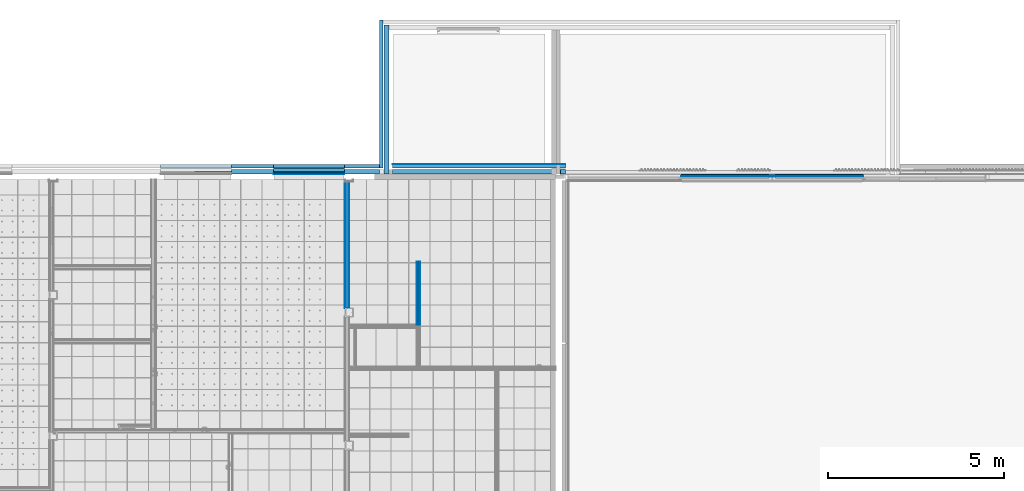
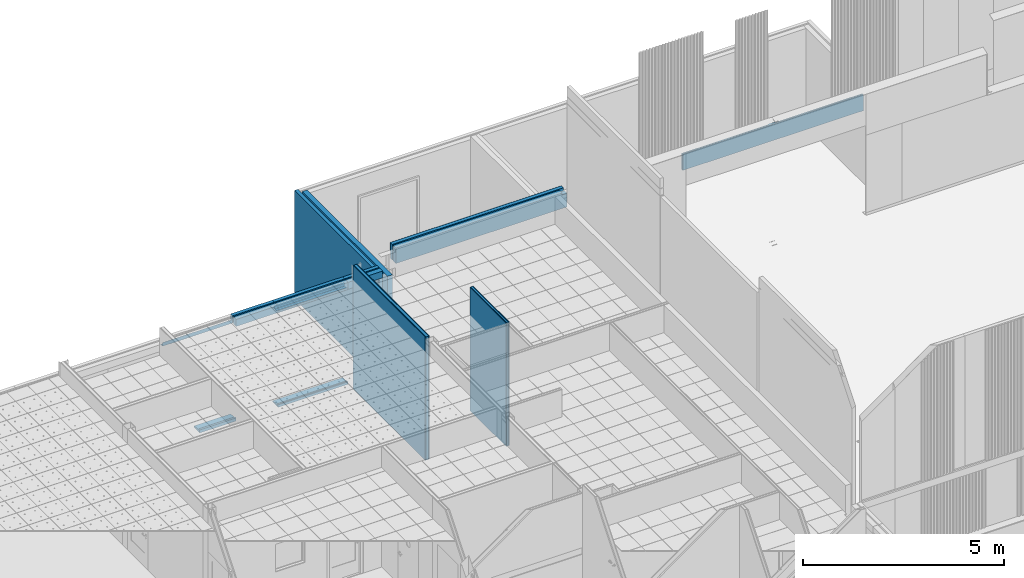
# One storey, part 94 of 338: 32 building element parts, 11 elements without a shape of their own.
"""IFC2X3 building model written with IfcOpenShell, lengths in millimetres."""

from ifc_helpers import new_model, entity, si_unit, converted_unit, derived_unit, money_unit, direction, frame, origin_with_axes, place, context, subcontext, project, spatial, faceted_brep, material, type_object, element, aggregate, save


model = new_model("IFC2X3")

# Units and contexts
model_context = context("Model", 3, precision=0.01, world=origin_with_axes(), true_north=direction((0.0, 1.0)))
plan_context = context("Plan", 3, precision=0.01, world=origin_with_axes(), true_north=direction((0.0, 1.0)))
body_context = subcontext(model_context, "Body", "Model", "MODEL_VIEW")
ifc_project = project(units=[si_unit("LENGTHUNIT", "METRE", prefix="MILLI"), si_unit("AREAUNIT", "SQUARE_METRE"), si_unit("VOLUMEUNIT", "CUBIC_METRE"), converted_unit("PLANEANGLEUNIT", "DEGREE", entity("IfcPlaneAngleMeasure", 0.0174532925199), si_unit("PLANEANGLEUNIT", "RADIAN"), dimensions=[0, 0, 0, 0, 0, 0, 0]), money_unit("EUR"), converted_unit("TIMEUNIT", "Year", entity("IfcTimeMeasure", 31556926.0), si_unit("TIMEUNIT", "SECOND"), dimensions=[0, 0, 1, 0, 0, 0, 0]), si_unit("MASSUNIT", "GRAM", prefix="KILO"), si_unit("THERMODYNAMICTEMPERATUREUNIT", "DEGREE_CELSIUS"), si_unit("LUMINOUSINTENSITYUNIT", "LUMEN"), si_unit("ENERGYUNIT", "JOULE", prefix="MEGA"), derived_unit("THERMALCONDUCTANCEUNIT", [(si_unit("POWERUNIT", "WATT"), 1), (si_unit("LENGTHUNIT", "METRE"), -1), (si_unit("THERMODYNAMICTEMPERATUREUNIT", "KELVIN"), -1)]), derived_unit("SPECIFICHEATCAPACITYUNIT", [(si_unit("ENERGYUNIT", "JOULE"), 1), (si_unit("MASSUNIT", "GRAM", prefix="KILO"), -1), (si_unit("THERMODYNAMICTEMPERATUREUNIT", "KELVIN"), -1)]), derived_unit("MASSDENSITYUNIT", [(si_unit("MASSUNIT", "GRAM", prefix="KILO"), 1), (si_unit("VOLUMEUNIT", "CUBIC_METRE"), -1)])], contexts=[model_context, plan_context])

# Site, building, storey
site_placement = place(None, origin_with_axes())
site = spatial("IfcSite", under=ifc_project, at=site_placement, Name="Fortuinstraat Woensdrecht", CompositionType="ELEMENT")
building_placement = place(site_placement, origin_with_axes())
building = spatial("IfcBuilding", under=site, at=building_placement, Name="IKC Fortuna", CompositionType="ELEMENT")
storey_placement = place(building_placement, origin_with_axes())
storey = spatial("IfcBuildingStorey", under=building, at=storey_placement, Name="00 begane grond", CompositionType="ELEMENT", Elevation=0.0)

# Wall, building element parts
wall_type_1 = type_object("IfcWallType", Name="21 MW accent 280", PredefinedType="NOTDEFINED")
wall_1_placement = place(storey_placement, frame((30105.4349964, 35496.2966283, -485.0), z_axis=(0.0, 0.0, 1.0), x_axis=(-2.18100111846e-07, 1.0, 0.0)))
wall_1 = element("IfcWall", 1, at=wall_1_placement, inside=storey, type_object=wall_type_1, Name="21_Wand_Baksteen")
ifc_material_1 = material(Name="Steen - Baksteen Accent")
building_element_part_1_placement = place(wall_1_placement, origin_with_axes())
building_element_part_1 = element("IfcBuildingElementPart", 2, at=building_element_part_1_placement, material=ifc_material_1, Name="Steen - Baksteen Accent", context=body_context, shape_type="Brep", body=[
    faceted_brep([(4380.00003926, 180.0, 3285.0), (4380.00006107, 280.0, 3285.0), (180.000061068, 280.0, 3285.0), (180.000039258, 180.0, 3285.0), (4380.00003926, 180.0, 0.0), (4380.00006107, 280.0, 0.0), (180.000061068, 280.0, 0.0), (180.000039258, 180.0, 0.0)], [[[0, 1, 2, 3]], [[1, 0, 4, 5]], [[1, 5, 6, 2]], [[7, 3, 2, 6]], [[4, 0, 3, 7]], [[5, 4, 7, 6]]]),
])
ifc_material_2 = material(Name="ALG - ISOLATIE")
building_element_part_2_placement = place(wall_1_placement, origin_with_axes())
building_element_part_2 = element("IfcBuildingElementPart", 3, at=building_element_part_2_placement, material=ifc_material_2, Name="ALG - ISOLATIE", context=body_context, shape_type="Brep", body=[
    faceted_brep([(4240.0, 0.0, 3285.0), (4240.00003053, 140.0, 3285.0), (3.05340108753e-05, 140.0, 3285.0), (0.0, 0.0, 3285.0), (4240.0, 0.0, 0.0), (4240.00003053, 140.0, 0.0), (3.05340108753e-05, 140.0, 0.0), (0.0, 0.0, 0.0)], [[[0, 1, 2, 3]], [[1, 0, 4, 5]], [[1, 5, 6, 2]], [[7, 3, 2, 6]], [[4, 0, 3, 7]], [[5, 4, 7, 6]]]),
])
aggregate(wall_1, [building_element_part_1, building_element_part_2])

# Covering, building element parts
covering_type_1 = type_object("IfcCoveringType", Name="21 Dakopstand 286", PredefinedType="CLADDING")
covering_1_placement = place(storey_placement, frame((30205.4341022, 35496.2966283, 3100.0), z_axis=(0.0, 0.0, 1.0), x_axis=(1.0, 0.0, 0.0)))
covering_1 = element("IfcCovering", 4, at=covering_1_placement, inside=storey, type_object=covering_type_1, Name="21_Wandafwerking_Dakopstand", PredefinedType="CLADDING")
ifc_material_3 = material(Name="Membraan - waterdicht")
building_element_part_3_placement = place(covering_1_placement, origin_with_axes())
building_element_part_3 = element("IfcBuildingElementPart", 5, at=building_element_part_3_placement, material=ifc_material_3, Name="Membraan - waterdicht", context=body_context, shape_type="Brep", body=[
    faceted_brep([(4907.99295488, 279.999963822, 205.811195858), (4907.99295488, 286.0, 205.717035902), (4907.99295488, 286.0, 472.5), (4907.99295488, 280.0, 472.5), (0.0, 285.999938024, 205.710001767), (0.0, 279.999963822, 205.80000138), (0.0, 286.0, 472.5), (0.0, 280.0, 472.5)], [[[0, 1, 2, 3]], [[4, 1, 0, 5]], [[1, 4, 6, 2]], [[7, 3, 2, 6]], [[5, 0, 3, 7]], [[4, 5, 7, 6]]]),
])
ifc_material_4 = material(Name="Steen - Cellenbeton")
building_element_part_4_placement = place(covering_1_placement, origin_with_axes())
building_element_part_4 = element("IfcBuildingElementPart", 6, at=building_element_part_4_placement, material=ifc_material_4, Name="Steen - Cellenbeton", context=body_context, shape_type="Brep", body=[
    faceted_brep([(0.0, 180.0, 472.5), (4907.99295488, 180.0, 472.5), (4907.99295488, 280.0, 472.5), (0.0, 280.0, 472.5), (0.0, 180.0, 0.0), (4907.99295488, 180.0, 0.0), (4907.99295488, 280.0, 0.0), (0.0, 280.0, 0.0)], [[[0, 1, 2, 3]], [[4, 5, 1, 0]], [[2, 1, 5, 6]], [[3, 2, 6, 7]], [[4, 0, 3, 7]], [[7, 6, 5, 4]]]),
])
building_element_part_5_placement = place(covering_1_placement, origin_with_axes())
building_element_part_5 = element("IfcBuildingElementPart", 7, at=building_element_part_5_placement, material=ifc_material_2, Name="ALG - ISOLATIE", context=body_context, shape_type="Brep", body=[
    faceted_brep([(0.0, 140.0, 0.0), (0.0, 140.0, 472.5), (4767.99295488, 140.0, 472.5), (4767.99295488, 140.0, 410.0), (4907.99295488, 140.0, 410.0), (4907.99295488, 140.0, 0.0), (0.0, 0.0, 0.0), (0.0, 0.0, 472.5), (4767.99295488, 0.0, 472.5), (4767.99295488, 0.0, 410.0), (4907.99295488, 0.0, 410.0), (4907.99295488, 0.0, 0.0)], [[[0, 1, 2, 3, 4, 5]], [[1, 0, 6, 7]], [[1, 7, 8, 2]], [[8, 9, 3, 2]], [[10, 4, 3, 9]], [[11, 5, 4, 10]], [[11, 6, 0, 5]], [[11, 10, 9, 8, 7, 6]]]),
])
aggregate(covering_1, [building_element_part_3, building_element_part_4, building_element_part_5])

# Wall, building element parts
wall_type_2 = type_object("IfcWallType", Name="MS100 2.50.2A 100", PredefinedType="NOTDEFINED")
wall_2_placement = place(storey_placement, frame((30894.3655266, 33016.4813061, -90.0), z_axis=(0.0, 0.0, 1.0), x_axis=(0.0, -1.0, 0.0)))
wall_2 = element("IfcWall", 8, at=wall_2_placement, inside=storey, type_object=wall_type_2, Name="22_Wand_Binnenwand")
ifc_material_5 = material(Name="Gipsplaat")
building_element_part_6_placement = place(wall_2_placement, origin_with_axes())
building_element_part_6 = element("IfcBuildingElementPart", 9, at=building_element_part_6_placement, material=ifc_material_5, Name="Gipsplaat", context=body_context, shape_type="Brep", body=[
    faceted_brep([(1800.0, 87.5, 3740.0), (1800.0, 100.0, 3740.0), (0.0, 100.0, 3740.0), (0.0, 87.5, 3740.0), (1800.0, 87.5, 0.0), (1800.0, 100.0, 0.0), (0.0, 100.0, 0.0), (0.0, 87.5, 0.0)], [[[0, 1, 2, 3]], [[0, 4, 5, 1]], [[1, 5, 6, 2]], [[3, 2, 6, 7]], [[4, 0, 3, 7]], [[5, 4, 7, 6]]]),
])
building_element_part_7_placement = place(wall_2_placement, origin_with_axes())
building_element_part_7 = element("IfcBuildingElementPart", 10, at=building_element_part_7_placement, material=ifc_material_5, Name="Gipsplaat", context=body_context, shape_type="Brep", body=[
    faceted_brep([(1800.0, 75.0, 3740.0), (1800.0, 87.5, 3740.0), (0.0, 87.5, 3740.0), (0.0, 75.0, 3740.0), (1800.0, 75.0, 0.0), (1800.0, 87.5, 0.0), (0.0, 87.5, 0.0), (0.0, 75.0, 0.0)], [[[0, 1, 2, 3]], [[0, 4, 5, 1]], [[1, 5, 6, 2]], [[3, 2, 6, 7]], [[4, 0, 3, 7]], [[5, 4, 7, 6]]]),
])
ifc_material_6 = material(Name="Isolatie - Steenwol LSW")
building_element_part_8_placement = place(wall_2_placement, origin_with_axes())
building_element_part_8 = element("IfcBuildingElementPart", 11, at=building_element_part_8_placement, material=ifc_material_6, Name="Isolatie - Steenwol LSW", context=body_context, shape_type="Brep", body=[
    faceted_brep([(1800.0, 25.0, 3740.0), (1800.0, 75.0, 3740.0), (0.0, 75.0, 3740.0), (0.0, 25.0, 3740.0), (1800.0, 25.0, 0.0), (1800.0, 75.0, 0.0), (0.0, 75.0, 0.0), (0.0, 25.0, 0.0)], [[[0, 1, 2, 3]], [[0, 4, 5, 1]], [[1, 5, 6, 2]], [[3, 2, 6, 7]], [[4, 0, 3, 7]], [[5, 4, 7, 6]]]),
])
building_element_part_9_placement = place(wall_2_placement, origin_with_axes())
building_element_part_9 = element("IfcBuildingElementPart", 12, at=building_element_part_9_placement, material=ifc_material_5, Name="Gipsplaat", context=body_context, shape_type="Brep", body=[
    faceted_brep([(1800.0, 12.5, 3740.0), (1800.0, 25.0, 3740.0), (0.0, 25.0, 3740.0), (0.0, 12.5, 3740.0), (1800.0, 12.5, 0.0), (1800.0, 25.0, 0.0), (0.0, 25.0, 0.0), (0.0, 12.5, 0.0)], [[[0, 1, 2, 3]], [[0, 4, 5, 1]], [[1, 5, 6, 2]], [[3, 2, 6, 7]], [[4, 0, 3, 7]], [[5, 4, 7, 6]]]),
])
building_element_part_10_placement = place(wall_2_placement, origin_with_axes())
building_element_part_10 = element("IfcBuildingElementPart", 13, at=building_element_part_10_placement, material=ifc_material_5, Name="Gipsplaat", context=body_context, shape_type="Brep", body=[
    faceted_brep([(1800.0, 0.0, 3740.0), (1800.0, 12.5, 3740.0), (0.0, 12.5, 3740.0), (0.0, 0.0, 3740.0), (1800.0, 0.0, 0.0), (1800.0, 12.5, 0.0), (0.0, 12.5, 0.0), (0.0, 0.0, 0.0)], [[[0, 1, 2, 3]], [[0, 4, 5, 1]], [[1, 5, 6, 2]], [[3, 2, 6, 7]], [[4, 0, 3, 7]], [[5, 4, 7, 6]]]),
])
aggregate(wall_2, [building_element_part_6, building_element_part_7, building_element_part_8, building_element_part_9, building_element_part_10])

wall_type_3 = type_object("IfcWallType", Name="MS125 2.75.2A 125", PredefinedType="NOTDEFINED")
wall_3_placement = place(storey_placement, frame((28851.9349765, 35284.7966282, -90.0), z_axis=(0.0, 0.0, 1.0), x_axis=(0.0, -1.0, 0.0)))
wall_3 = element("IfcWall", 14, at=wall_3_placement, inside=storey, type_object=wall_type_3, Name="22_Wand_Binnenwand")
building_element_part_11_placement = place(wall_3_placement, origin_with_axes())
building_element_part_11 = element("IfcBuildingElementPart", 15, at=building_element_part_11_placement, material=ifc_material_5, Name="Gipsplaat", context=body_context, shape_type="Brep", body=[
    faceted_brep([(3589.99999998, 112.5, 3740.0), (3589.99999998, 125.0, 3740.0), (0.0, 125.0, 3740.0), (0.0, 112.5, 3740.0), (3589.99999998, 112.5, 0.0), (3589.99999998, 125.0, 0.0), (0.0, 125.0, 0.0), (0.0, 112.5, 0.0)], [[[0, 1, 2, 3]], [[0, 4, 5, 1]], [[1, 5, 6, 2]], [[3, 2, 6, 7]], [[4, 0, 3, 7]], [[5, 4, 7, 6]]]),
])
building_element_part_12_placement = place(wall_3_placement, origin_with_axes())
building_element_part_12 = element("IfcBuildingElementPart", 16, at=building_element_part_12_placement, material=ifc_material_5, Name="Gipsplaat", context=body_context, shape_type="Brep", body=[
    faceted_brep([(3589.99999998, 100.0, 3740.0), (3589.99999998, 112.5, 3740.0), (0.0, 112.5, 3740.0), (0.0, 100.0, 3740.0), (3589.99999998, 100.0, 0.0), (3589.99999998, 112.5, 0.0), (0.0, 112.5, 0.0), (0.0, 100.0, 0.0)], [[[0, 1, 2, 3]], [[0, 4, 5, 1]], [[1, 5, 6, 2]], [[3, 2, 6, 7]], [[4, 0, 3, 7]], [[5, 4, 7, 6]]]),
])
building_element_part_13_placement = place(wall_3_placement, origin_with_axes())
building_element_part_13 = element("IfcBuildingElementPart", 17, at=building_element_part_13_placement, material=ifc_material_6, Name="Isolatie - Steenwol LSW", context=body_context, shape_type="Brep", body=[
    faceted_brep([(3589.99999998, 25.0, 3740.0), (3589.99999998, 100.0, 3740.0), (0.0, 100.0, 3740.0), (0.0, 25.0, 3740.0), (3589.99999998, 25.0, 0.0), (3589.99999998, 100.0, 0.0), (0.0, 100.0, 0.0), (0.0, 25.0, 0.0)], [[[0, 1, 2, 3]], [[0, 4, 5, 1]], [[1, 5, 6, 2]], [[3, 2, 6, 7]], [[4, 0, 3, 7]], [[5, 4, 7, 6]]]),
])
building_element_part_14_placement = place(wall_3_placement, origin_with_axes())
building_element_part_14 = element("IfcBuildingElementPart", 18, at=building_element_part_14_placement, material=ifc_material_5, Name="Gipsplaat", context=body_context, shape_type="Brep", body=[
    faceted_brep([(3589.99999998, 12.5, 3740.0), (3589.99999998, 25.0, 3740.0), (0.0, 25.0, 3740.0), (0.0, 12.5, 3740.0), (3589.99999998, 12.5, 0.0), (3589.99999998, 25.0, 0.0), (0.0, 25.0, 0.0), (0.0, 12.5, 0.0)], [[[0, 1, 2, 3]], [[0, 4, 5, 1]], [[1, 5, 6, 2]], [[3, 2, 6, 7]], [[4, 0, 3, 7]], [[5, 4, 7, 6]]]),
])
building_element_part_15_placement = place(wall_3_placement, origin_with_axes())
building_element_part_15 = element("IfcBuildingElementPart", 19, at=building_element_part_15_placement, material=ifc_material_5, Name="Gipsplaat", context=body_context, shape_type="Brep", body=[
    faceted_brep([(3589.99999998, 0.0, 3740.0), (3589.99999998, 12.5, 3740.0), (0.0, 12.5, 3740.0), (0.0, 0.0, 3740.0), (3589.99999998, 0.0, 0.0), (3589.99999998, 12.5, 0.0), (0.0, 12.5, 0.0), (0.0, 0.0, 0.0)], [[[0, 1, 2, 3]], [[0, 4, 5, 1]], [[1, 5, 6, 2]], [[3, 2, 6, 7]], [[4, 0, 3, 7]], [[5, 4, 7, 6]]]),
])
aggregate(wall_3, [building_element_part_11, building_element_part_12, building_element_part_13, building_element_part_14, building_element_part_15])

wall_type_4 = type_object("IfcWallType", Name="42 Gymzaal 70", PredefinedType="NOTDEFINED")
wall_4_placement = place(storey_placement, frame((38393.4270571, 35496.2966283, 3100.0), z_axis=(0.0, 0.0, 1.0), x_axis=(1.0, 0.0, 0.0)))
wall_4 = element("IfcWall", 20, at=wall_4_placement, inside=storey, type_object=wall_type_4, Name="22_Wand_KZST")
building_element_part_16_placement = place(wall_4_placement, origin_with_axes())
building_element_part_16 = element("IfcBuildingElementPart", 21, at=building_element_part_16_placement, material=ifc_material_2, Name="ALG - ISOLATIE", context=body_context, shape_type="Brep", body=[
    faceted_brep([(0.0, -2.18847162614e-08, 440.0), (2490.00000006, -2.18847162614e-08, 440.0), (2490.00000006, -2.18847162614e-08, 493.875793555), (2680.00000006, -2.18847162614e-08, 493.875793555), (2680.00000006, -2.18847162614e-08, 440.0), (5180.0, -2.18847162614e-08, 440.0), (5180.0, 0.0, 0.0), (0.0, 0.0, 0.0), (0.0, -3.26168729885, 440.0), (2490.00000006, -3.26168729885, 440.0), (2490.00000006, -60.0, 493.875793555), (2490.00000006, -6.65312693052, 441.326018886), (2490.00000006, -8.24572136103, 444.60074511), (2490.00000006, -11.3857278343, 483.79850978), (2490.00000006, -14.5709166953, 490.347962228), (2490.00000006, -21.3537959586, 493.0), (2490.00000006, -60.0, 493.0), (2680.00000006, -60.0, 493.875793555), (2680.00000006, -60.0, 493.0), (2680.00000006, -21.3537959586, 493.0), (2680.00000006, -14.5709166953, 490.347962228), (2680.00000006, -11.3857278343, 483.79850978), (2680.00000006, -8.24572136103, 444.60074511), (2680.00000006, -6.65312693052, 441.326018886), (2680.00000006, -3.26168729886, 440.0), (5180.0, -3.26168729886, 440.0), (5180.0, -21.3537959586, 493.0), (5180.0, -60.0, 493.0), (5180.0, -60.0, 0.0), (5180.0, -6.65312693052, 441.326018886), (5180.0, -8.24572136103, 444.60074511), (5180.0, -11.3857278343, 483.79850978), (5180.0, -14.5709166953, 490.347962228), (0.0, -60.0, 0.0), (0.0, -60.0, 493.0), (0.0, -21.3537959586, 493.0), (0.0, -14.5709166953, 490.347962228), (0.0, -11.3857278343, 483.79850978), (0.0, -8.24572136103, 444.60074511), (0.0, -6.65312693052, 441.326018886)], [[[0, 1, 2, 3, 4, 5, 6, 7]], [[1, 0, 8, 9]], [[10, 2, 1, 9, 11, 12, 13, 14, 15, 16]], [[2, 10, 17, 3]], [[4, 3, 17, 18, 19, 20, 21, 22, 23, 24]], [[25, 5, 4, 24]], [[26, 27, 28, 6, 5, 25, 29, 30, 31, 32]], [[33, 7, 6, 28]], [[8, 0, 7, 33, 34, 35, 36, 37, 38, 39]], [[8, 39, 11, 9]], [[39, 38, 12, 11]], [[38, 37, 13, 12]], [[37, 36, 14, 13]], [[36, 35, 15, 14]], [[34, 16, 15, 35]], [[16, 34, 33, 28, 27, 18, 17, 10]], [[27, 26, 19, 18]], [[26, 32, 20, 19]], [[32, 31, 21, 20]], [[31, 30, 22, 21]], [[30, 29, 23, 22]], [[29, 25, 24, 23]]]),
])
ifc_material_7 = material(Name="42 Balvaste vlakke beplating")
building_element_part_17_placement = place(wall_4_placement, origin_with_axes())
building_element_part_17 = element("IfcBuildingElementPart", 22, at=building_element_part_17_placement, material=ifc_material_7, Name="42 Balvaste vlakke beplating", context=body_context, shape_type="Brep", body=[
    faceted_brep([(2587.00000006, -70.0, 493.875793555), (2587.00000006, -60.0, 493.875793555), (2490.00000006, -60.0, 493.875793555), (2490.00000006, -70.0, 493.875793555), (2587.00000006, -60.0, 0.0), (2587.00000006, -70.0, 0.0), (0.0, -60.0, 0.0), (0.0, -60.0, 493.0), (2490.00000006, -60.0, 493.0), (2490.00000006, -70.0, 493.0), (0.0, -70.0, 493.0), (0.0, -70.0, 0.0)], [[[0, 1, 2, 3]], [[4, 1, 0, 5]], [[1, 4, 6, 7, 8, 2]], [[9, 3, 2, 8]], [[5, 0, 3, 9, 10, 11]], [[4, 5, 11, 6]], [[11, 10, 7, 6]], [[9, 8, 7, 10]]]),
    faceted_brep([(2593.00000006, -60.0, 0.0), (2593.00000006, -60.0, 493.875793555), (2680.00000006, -60.0, 493.875793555), (2680.00000006, -60.0, 493.0), (5180.0, -60.0, 493.0), (5180.0, -60.0, 0.0), (2593.00000006, -70.0, 493.875793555), (2593.00000006, -70.0, 0.0), (2680.00000006, -70.0, 493.875793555), (2680.00000006, -70.0, 493.0), (5180.0, -70.0, 493.0), (5180.0, -70.0, 0.0)], [[[0, 1, 2, 3, 4, 5]], [[6, 1, 0, 7]], [[1, 6, 8, 2]], [[9, 3, 2, 8]], [[9, 10, 4, 3]], [[5, 4, 10, 11]], [[7, 0, 5, 11]], [[6, 7, 11, 10, 9, 8]]]),
])
aggregate(wall_4, [building_element_part_16, building_element_part_17])

# Covering, building element part
covering_type_2 = type_object("IfcCoveringType", Name="41 Latei MW rollaag 280 x 227", PredefinedType="NOTDEFINED")
covering_2_placement = place(storey_placement, frame((25625.4349147, 35636.2966283, 2800.0), z_axis=(0.0, 0.0, 1.0), x_axis=(-1.0, 0.0, 0.0)))
covering_2 = element("IfcCovering", 23, at=covering_2_placement, inside=storey, type_object=covering_type_2, Name="41_Afwerking_Latei + rollaag", PredefinedType="NOTDEFINED")
ifc_material_8 = material(Name="Metaal - Staal C")
building_element_part_18_placement = place(covering_2_placement, origin_with_axes())
building_element_part_18 = element("IfcBuildingElementPart", 24, at=building_element_part_18_placement, material=ifc_material_8, Name="Metaal - Staal C", context=body_context, shape_type="Brep", body=[
    faceted_brep([(0.0, -19.6522464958, 117.347753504), (0.0, -19.6522464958, 120.652246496), (0.0, -18.0000000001, 119.0), (2010.0, -19.6522464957, 120.652246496), (2010.0, -19.6522464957, 117.347753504), (2010.0, -18.0, 119.0)], [[[0, 1, 2]], [[3, 1, 0, 4]], [[1, 3, 5, 2]], [[4, 0, 2, 5]], [[3, 4, 5]]]),
    faceted_brep([(2010.0, -29.6522464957, 112.931255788), (0.0, -29.6522464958, 112.931255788), (0.0, -36.0000000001, 106.530733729), (2010.0, -36.0, 106.530733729), (0.0, -29.6522464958, 107.347753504), (2010.0, -29.6522464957, 107.347753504), (0.0, -32.0, 105.0), (0.0, -32.0, 4.0), (0.0, -32.0, 0.0), (0.0, -33.1715728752, -2.82842712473), (0.0, -36.0, -4.0), (0.0, -115.215535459, -4.0), (0.0, -135.215535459, -8.0), (0.0, -136.0, -4.07767729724), (0.0, -115.609685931, 0.0), (0.0, -40.0, 0.0), (0.0, -37.1715728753, 1.17157287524), (0.0, -36.0000000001, 3.99999999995), (2010.0, -36.0, 3.99999999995), (2010.0, -37.1715728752, 1.17157287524), (2010.0, -39.9999999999, 0.0), (2010.0, -115.609685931, 0.0), (2010.0, -136.0, -4.07767729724), (2010.0, -135.215535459, -8.0), (2010.0, -115.215535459, -4.0), (2010.0, -35.9999999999, -4.0), (2010.0, -33.1715728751, -2.82842712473), (2010.0, -31.9999999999, 0.0), (2010.0, -31.9999999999, 4.0), (2010.0, -31.9999999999, 105.0)], [[[0, 1, 2, 3]], [[4, 1, 0, 5]], [[1, 4, 6, 7, 8, 9, 10, 11, 12, 13, 14, 15, 16, 17, 2]], [[17, 18, 3, 2]], [[5, 0, 3, 18, 19, 20, 21, 22, 23, 24, 25, 26, 27, 28, 29]], [[4, 5, 29, 6]], [[6, 29, 28, 7]], [[7, 28, 27, 8]], [[8, 27, 26, 9]], [[9, 26, 25, 10]], [[10, 25, 24, 11]], [[11, 24, 23, 12]], [[12, 23, 22, 13]], [[13, 22, 21, 14]], [[14, 21, 20, 15]], [[15, 20, 19, 16]], [[16, 19, 18, 17]]]),
])
aggregate(covering_2, [building_element_part_18])

# Covering, building element parts
covering_3_placement = place(storey_placement, frame((28835.4347795, 35636.2966283, 2800.0), z_axis=(0.0, 0.0, 1.0), x_axis=(-1.0, 0.0, 0.0)))
covering_3 = element("IfcCovering", 25, at=covering_3_placement, inside=storey, type_object=covering_type_2, Name="41_Afwerking_Latei + rollaag", PredefinedType="NOTDEFINED")
ifc_material_9 = material(Name="Isolatie - PUR gespoten")
building_element_part_19_placement = place(covering_3_placement, origin_with_axes())
building_element_part_19 = element("IfcBuildingElementPart", 26, at=building_element_part_19_placement, material=ifc_material_9, Name="Isolatie - PUR gespoten", context=body_context, shape_type="Brep", body=[
    faceted_brep([(2010.0, 139.999999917, -1.28576260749e-07), (2010.0, 127.999998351, -1.28576260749e-07), (0.0, 127.999998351, -1.28576260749e-07), (0.0, 139.999999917, -1.28576260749e-07), (2010.0, 139.999999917, 53.0000002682), (2010.0, 127.999998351, 53.0000013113), (0.0, 127.999998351, 53.0000013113), (0.0, 139.999999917, 53.0000002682)], [[[0, 1, 2, 3]], [[0, 4, 5, 1]], [[1, 5, 6, 2]], [[3, 2, 6, 7]], [[4, 0, 3, 7]], [[5, 4, 7, 6]]]),
])
ifc_material_10 = material(Name="Hout AFW")
building_element_part_20_placement = place(covering_3_placement, origin_with_axes())
building_element_part_20 = element("IfcBuildingElementPart", 27, at=building_element_part_20_placement, material=ifc_material_10, Name="Hout AFW", context=body_context, shape_type="Brep", body=[
    faceted_brep([(2010.0, 127.999998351, -1.28576260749e-07), (2010.0, 127.999998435, -17.0), (0.0, 127.999998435, -17.0), (0.0, 127.999998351, -1.28576260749e-07), (2010.0, 127.999998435, 53.0000013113), (2010.0, 83.9999988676, 53.0000013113), (2010.0, 83.9999988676, -17.0), (0.0, 83.9999988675, -17.0), (0.0, 83.9999988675, 53.0000013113), (0.0, 127.999998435, 53.0000013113)], [[[0, 1, 2, 3]], [[0, 4, 5, 6, 1]], [[1, 6, 7, 2]], [[3, 2, 7, 8, 9]], [[4, 0, 3, 9]], [[5, 4, 9, 8]], [[6, 5, 8, 7]]]),
])
building_element_part_21_placement = place(covering_3_placement, origin_with_axes())
building_element_part_21 = element("IfcBuildingElementPart", 28, at=building_element_part_21_placement, material=ifc_material_2, Name="ALG - ISOLATIE", context=body_context, shape_type="Brep", body=[
    faceted_brep([(2010.0, 83.9999988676, 53.0000013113), (2010.0, 1.06581410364e-10, 53.0), (0.0, 0.0, 53.0), (0.0, 83.9999988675, 53.0000013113), (2010.0, 140.0, 53.0), (2010.0, 140.0, 210.0), (2010.0, 1.06581410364e-10, 210.0), (0.0, 0.0, 210.0), (0.0, 140.0, 210.0), (0.0, 140.0, 53.0)], [[[0, 1, 2, 3]], [[0, 4, 5, 6, 1]], [[1, 6, 7, 2]], [[3, 2, 7, 8, 9]], [[4, 0, 3, 9]], [[5, 4, 9, 8]], [[6, 5, 8, 7]]]),
])
ifc_material_11 = material(Name="Metaal - Staal AFW")
building_element_part_22_placement = place(covering_3_placement, origin_with_axes())
building_element_part_22 = element("IfcBuildingElementPart", 29, at=building_element_part_22_placement, material=ifc_material_11, Name="Metaal - Staal AFW", context=body_context, shape_type="Brep", body=[
    faceted_brep([(0.0, -19.6522464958, 0.0), (0.0, -19.6522464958, 4.0), (0.0, 58.0, 4.0), (0.0, 58.0, 0.0), (2010.0, -19.6522464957, 4.0), (2010.0, -19.6522464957, 0.0), (2010.0, 58.0000000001, 4.0), (2010.0, 58.0000000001, 0.0)], [[[0, 1, 2, 3]], [[4, 1, 0, 5]], [[1, 4, 6, 2]], [[2, 6, 7, 3]], [[5, 0, 3, 7]], [[4, 5, 7, 6]]]),
    faceted_brep([(0.0, -30.0664600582, 4.0), (0.0, -31.7233143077, 0.0), (0.0, -32.0, 0.0), (0.0, -32.0, 4.0), (2010.0, -31.7233143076, 0.0), (2010.0, -30.0664600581, 4.0), (2010.0, -31.9999999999, 0.0), (2010.0, -31.9999999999, 4.0)], [[[0, 1, 2, 3]], [[4, 1, 0, 5]], [[1, 4, 6, 2]], [[2, 6, 7, 3]], [[5, 0, 3, 7]], [[4, 5, 7, 6]]]),
])
ifc_material_12 = material(Name="Steen - Baksteen Accent Rollaag")
building_element_part_23_placement = place(covering_3_placement, origin_with_axes())
building_element_part_23 = element("IfcBuildingElementPart", 30, at=building_element_part_23_placement, material=ifc_material_12, Name="Steen - Baksteen Accent Rollaag", context=body_context, shape_type="Brep", body=[
    faceted_brep([(0.0, -40.0, 210.0), (2010.0, -39.9999999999, 210.0), (2010.0, -39.9999999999, 0.0), (0.0, -40.0, 0.0), (0.0, -140.0, 210.0), (2010.0, -140.0, 210.0), (2010.0, -140.0, 0.0), (2010.0, -115.609685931, 0.0), (0.0, -115.609685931, 0.0), (0.0, -140.0, 0.0)], [[[0, 1, 2, 3]], [[4, 5, 1, 0]], [[2, 1, 5, 6, 7]], [[3, 2, 7, 8]], [[4, 0, 3, 8, 9]], [[9, 6, 5, 4]], [[8, 7, 6, 9]]]),
])
building_element_part_24_placement = place(covering_3_placement, origin_with_axes())
building_element_part_24 = element("IfcBuildingElementPart", 31, at=building_element_part_24_placement, material=ifc_material_8, Name="Metaal - Staal C", context=body_context, shape_type="Brep", body=[
    faceted_brep([(0.0, -19.6522464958, 117.347753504), (0.0, -19.6522464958, 120.652246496), (0.0, -18.0000000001, 119.0), (2010.0, -19.6522464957, 120.652246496), (2010.0, -19.6522464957, 117.347753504), (2010.0, -18.0, 119.0)], [[[0, 1, 2]], [[3, 1, 0, 4]], [[1, 3, 5, 2]], [[4, 0, 2, 5]], [[3, 4, 5]]]),
    faceted_brep([(2010.0, -29.6522464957, 112.931255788), (0.0, -29.6522464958, 112.931255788), (0.0, -36.0000000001, 106.530733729), (2010.0, -36.0, 106.530733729), (0.0, -29.6522464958, 107.347753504), (2010.0, -29.6522464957, 107.347753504), (0.0, -32.0, 105.0), (0.0, -32.0, 4.0), (0.0, -32.0, 0.0), (0.0, -33.1715728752, -2.82842712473), (0.0, -36.0, -4.0), (0.0, -115.215535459, -4.0), (0.0, -135.215535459, -8.0), (0.0, -136.0, -4.07767729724), (0.0, -115.609685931, 0.0), (0.0, -40.0, 0.0), (0.0, -37.1715728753, 1.17157287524), (0.0, -36.0000000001, 3.99999999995), (2010.0, -36.0, 3.99999999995), (2010.0, -37.1715728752, 1.17157287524), (2010.0, -39.9999999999, 0.0), (2010.0, -115.609685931, 0.0), (2010.0, -136.0, -4.07767729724), (2010.0, -135.215535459, -8.0), (2010.0, -115.215535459, -4.0), (2010.0, -35.9999999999, -4.0), (2010.0, -33.1715728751, -2.82842712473), (2010.0, -31.9999999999, 0.0), (2010.0, -31.9999999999, 4.0), (2010.0, -31.9999999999, 105.0)], [[[0, 1, 2, 3]], [[4, 1, 0, 5]], [[1, 4, 6, 7, 8, 9, 10, 11, 12, 13, 14, 15, 16, 17, 2]], [[17, 18, 3, 2]], [[5, 0, 3, 18, 19, 20, 21, 22, 23, 24, 25, 26, 27, 28, 29]], [[4, 5, 29, 6]], [[6, 29, 28, 7]], [[7, 28, 27, 8]], [[8, 27, 26, 9]], [[9, 26, 25, 10]], [[10, 25, 24, 11]], [[11, 24, 23, 12]], [[12, 23, 22, 13]], [[13, 22, 21, 14]], [[14, 21, 20, 15]], [[15, 20, 19, 16]], [[16, 19, 18, 17]]]),
])
aggregate(covering_3, [building_element_part_19, building_element_part_20, building_element_part_21, building_element_part_22, building_element_part_23, building_element_part_24])

covering_type_3 = type_object("IfcCoveringType", Name="41 Rollaag 280 x 210", PredefinedType="NOTDEFINED")
covering_4_placement = place(storey_placement, frame((26825.4347795, 35636.2966283, 2800.0), z_axis=(0.0, 0.0, 1.0), x_axis=(-1.0, 0.0, 0.0)))
covering_4 = element("IfcCovering", 32, at=covering_4_placement, inside=storey, type_object=covering_type_3, Name="41_Afwerking_Rollaag", PredefinedType="NOTDEFINED")
building_element_part_25_placement = place(covering_4_placement, origin_with_axes())
building_element_part_25 = element("IfcBuildingElementPart", 33, at=building_element_part_25_placement, material=ifc_material_2, Name="ALG - ISOLATIE", context=body_context, shape_type="Brep", body=[
    faceted_brep([(1199.99986475, 0.0, 210.0), (1199.99986475, 140.0, 210.0), (0.0, 140.0, 210.0), (0.0, 0.0, 210.0), (1199.99986475, 0.0, 0.0), (1199.99986475, 140.0, 0.0), (0.0, 140.0, 0.0), (0.0, 0.0, 0.0)], [[[0, 1, 2, 3]], [[0, 4, 5, 1]], [[1, 5, 6, 2]], [[3, 2, 6, 7]], [[4, 0, 3, 7]], [[5, 4, 7, 6]]]),
])
building_element_part_26_placement = place(covering_4_placement, origin_with_axes())
building_element_part_26 = element("IfcBuildingElementPart", 34, at=building_element_part_26_placement, material=ifc_material_12, Name="Steen - Baksteen Accent Rollaag", context=body_context, shape_type="Brep", body=[
    faceted_brep([(0.0, -140.0, 0.0), (1199.99986475, -140.0, 0.0), (1199.99986475, -140.0, 210.0), (0.0, -140.0, 210.0), (0.0, -40.0, 0.0), (1199.99986475, -40.0, 0.0), (1199.99986475, -40.0, 210.0), (0.0, -40.0, 210.0)], [[[0, 1, 2, 3]], [[4, 5, 1, 0]], [[2, 1, 5, 6]], [[3, 2, 6, 7]], [[4, 0, 3, 7]], [[7, 6, 5, 4]]]),
])
aggregate(covering_4, [building_element_part_25, building_element_part_26])

covering_5_placement = place(storey_placement, frame((29825.4349353, 35636.2966283, 2800.0), z_axis=(0.0, 0.0, 1.0), x_axis=(-1.0, 0.0, 0.0)))
covering_5 = element("IfcCovering", 35, at=covering_5_placement, inside=storey, type_object=covering_type_3, Name="41_Afwerking_Rollaag", PredefinedType="NOTDEFINED")
building_element_part_27_placement = place(covering_5_placement, origin_with_axes())
building_element_part_27 = element("IfcBuildingElementPart", 36, at=building_element_part_27_placement, material=ifc_material_2, Name="ALG - ISOLATIE", context=body_context, shape_type="Brep", body=[
    faceted_brep([(990.000155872, 0.0, 210.0), (990.000155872, 140.0, 210.0), (0.0, 140.0, 210.0), (0.0, 0.0, 210.0), (990.000155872, 0.0, 0.0), (990.000155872, 140.0, 0.0), (0.0, 140.0, 0.0), (0.0, 0.0, 0.0)], [[[0, 1, 2, 3]], [[0, 4, 5, 1]], [[1, 5, 6, 2]], [[3, 2, 6, 7]], [[4, 0, 3, 7]], [[5, 4, 7, 6]]]),
])
building_element_part_28_placement = place(covering_5_placement, origin_with_axes())
building_element_part_28 = element("IfcBuildingElementPart", 37, at=building_element_part_28_placement, material=ifc_material_12, Name="Steen - Baksteen Accent Rollaag", context=body_context, shape_type="Brep", body=[
    faceted_brep([(0.0, -140.0, 0.0), (990.000155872, -140.0, 0.0), (990.000155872, -140.0, 210.0), (0.0, -140.0, 210.0), (0.0, -40.0, 0.0), (990.000155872, -40.0, 0.0), (990.000155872, -40.0, 210.0), (0.0, -40.0, 210.0)], [[[0, 1, 2, 3]], [[4, 5, 1, 0]], [[2, 1, 5, 6]], [[3, 2, 6, 7]], [[4, 0, 3, 7]], [[7, 6, 5, 4]]]),
])
aggregate(covering_5, [building_element_part_27, building_element_part_28])

covering_type_4 = type_object("IfcCoveringType", Name="41 dorpel aan peil 280 x 75", PredefinedType="NOTDEFINED")
covering_6_placement = place(storey_placement, frame((26825.4349353, 35636.2966283, -2.5), z_axis=(0.0, 0.0, 1.0), x_axis=(1.0, 0.0, 0.0)))
covering_6 = element("IfcCovering", 38, at=covering_6_placement, inside=storey, type_object=covering_type_4, Name="41_Afwerking_Waterslag", PredefinedType="NOTDEFINED")
ifc_material_13 = material(Name="Steen - Kunststeen")
building_element_part_29_placement = place(covering_6_placement, origin_with_axes())
building_element_part_29 = element("IfcBuildingElementPart", 39, at=building_element_part_29_placement, material=ifc_material_13, Name="Steen - Kunststeen", context=body_context, shape_type="Brep", body=[
    faceted_brep([(2010.0, 140.0, -39.7722078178), (2010.0, 140.0, -72.5), (0.0, 140.0, -72.5), (0.0, 140.0, -39.7722078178), (2010.0, -82.0, -19.5865456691), (2010.0, -82.0, 2.5), (2010.0, -92.0, 2.5), (2010.0, -92.0, -72.5), (0.0, -92.0, -72.5), (0.0, -92.0, 2.5), (0.0, -82.0, 2.5), (0.0, -82.0, -19.5865456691)], [[[0, 1, 2, 3]], [[0, 4, 5, 6, 7, 1]], [[1, 7, 8, 2]], [[3, 2, 8, 9, 10, 11]], [[4, 0, 3, 11]], [[5, 4, 11, 10]], [[6, 5, 10, 9]], [[7, 6, 9, 8]]]),
])
building_element_part_30_placement = place(covering_6_placement, origin_with_axes())
building_element_part_30 = element("IfcBuildingElementPart", 40, at=building_element_part_30_placement, material=ifc_material_10, Name="Hout AFW", context=body_context, shape_type="Brep", body=[
    faceted_brep([(2010.0, -92.0000008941, 2.49999865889), (2010.0, -92.0000008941, -72.5), (0.0, -92.0000008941, -72.5), (0.0, -92.0000008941, 2.49999865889), (2010.0, -130.0, 2.49999865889), (2010.0, -130.0, -72.5), (0.0, -130.0, -72.5), (0.0, -130.0, 2.49999865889)], [[[0, 1, 2, 3]], [[0, 4, 5, 1]], [[1, 5, 6, 2]], [[3, 2, 6, 7]], [[4, 0, 3, 7]], [[5, 4, 7, 6]]]),
])
building_element_part_31_placement = place(covering_6_placement, origin_with_axes())
building_element_part_31 = element("IfcBuildingElementPart", 41, at=building_element_part_31_placement, material=ifc_material_9, Name="Isolatie - PUR gespoten", context=body_context, shape_type="Brep", body=[
    faceted_brep([(2010.0, -129.999999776, -72.5), (2010.0, -139.999999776, -72.5), (0.0, -139.999999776, -72.5), (0.0, -129.999999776, -72.5), (2010.0, -129.999999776, 2.49999888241), (2010.0, -139.999999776, 2.5), (0.0, -139.999999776, 2.5), (0.0, -129.999999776, 2.49999888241)], [[[0, 1, 2, 3]], [[0, 4, 5, 1]], [[1, 5, 6, 2]], [[3, 2, 6, 7]], [[4, 0, 3, 7]], [[5, 4, 7, 6]]]),
])
aggregate(covering_6, [building_element_part_29, building_element_part_30, building_element_part_31])

# Covering, building element part
covering_type_5 = type_object("IfcCoveringType", Name="41 dorpel d bi 280 x 95", PredefinedType="NOTDEFINED")
covering_7_placement = place(storey_placement, frame((24582.4349147, 35636.2966283, -2.5), z_axis=(0.0, 0.0, 1.0), x_axis=(1.0, 0.0, 0.0)))
covering_7 = element("IfcCovering", 42, at=covering_7_placement, inside=storey, type_object=covering_type_5, Name="41_Afwerking_Waterslag", PredefinedType="NOTDEFINED")
building_element_part_32_placement = place(covering_7_placement, origin_with_axes())
building_element_part_32 = element("IfcBuildingElementPart", 43, at=building_element_part_32_placement, material=ifc_material_13, Name="Steen - Kunststeen", context=body_context, shape_type="Brep", body=[
    faceted_brep([(1043.0, 140.0, -17.1401037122), (1043.0, 140.0, -72.5), (0.0, 140.0, -72.5), (0.0, 140.0, -17.1401037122), (1043.0, -76.0, 2.5), (1043.0, -76.0, 22.5), (1043.0, -130.0, 22.5), (1043.0, -129.999999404, 2.49999821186), (1043.0, -130.0, -72.5), (0.0, -130.0, -72.5), (0.0, -129.999999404, 2.49999821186), (0.0, -130.0, 22.5), (0.0, -76.0, 22.5), (0.0, -76.0, 2.5)], [[[0, 1, 2, 3]], [[0, 4, 5, 6, 7, 8, 1]], [[1, 8, 9, 2]], [[3, 2, 9, 10, 11, 12, 13]], [[4, 0, 3, 13]], [[5, 4, 13, 12]], [[6, 5, 12, 11]], [[7, 6, 11, 10]], [[8, 7, 10, 9]]]),
])
aggregate(covering_7, [building_element_part_32])

save(model, "model.ifc")
